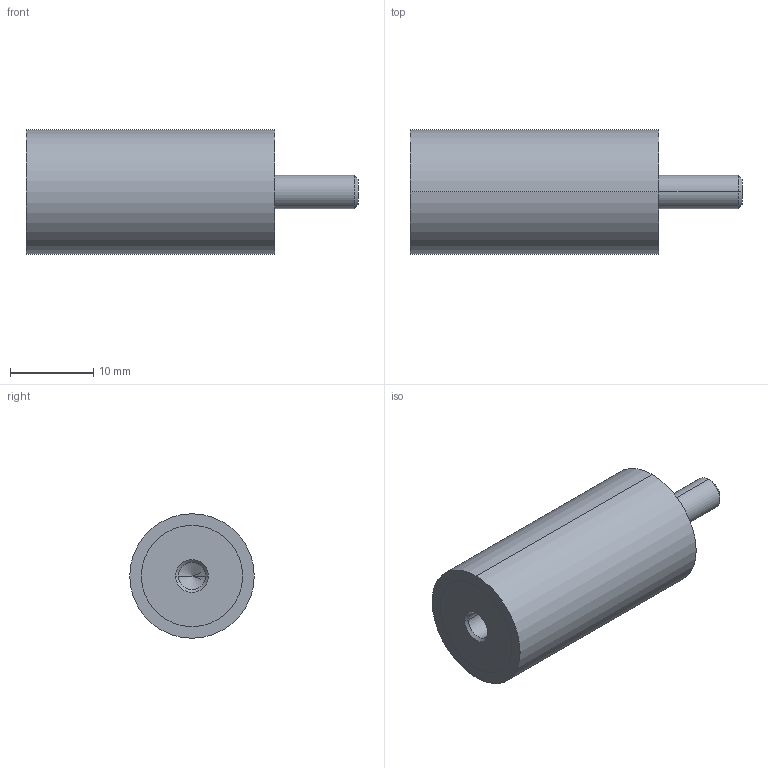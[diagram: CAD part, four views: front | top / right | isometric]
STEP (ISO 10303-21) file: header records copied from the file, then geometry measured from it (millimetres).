
FILE_DESCRIPTION (( 'STEP AP214' ), '1' );
FILE_NAME ('351-15-30-M4-ES-40.step', '2025-07-23T09:57:47', ( '' ), ( '' ), 'SwSTEP 2.0', 'SolidWorks 2022', '' );
FILE_SCHEMA (( 'AUTOMOTIVE_DESIGN' ));
Length unit declared in the file: millimetre
Products named in the file (1): 351-15-30-M4-ES-40
Bounding box: 40 x 15 x 15 mm (x, y, z)
Volume: 5377.8 mm3; surface area: 1941.2 mm2
Topology: 1 solids, 1 shells, 24 faces, 48 edges, 29 vertices
Faces by surface type: cylinder 12, cone 6, plane 6
Entity records: 740 total; most frequent: DIRECTION 124, CARTESIAN_POINT 100, ORIENTED_EDGE 92, AXIS2_PLACEMENT_3D 53, EDGE_CURVE 46, EDGE_LOOP 29, VERTEX_POINT 29, CIRCLE 28
